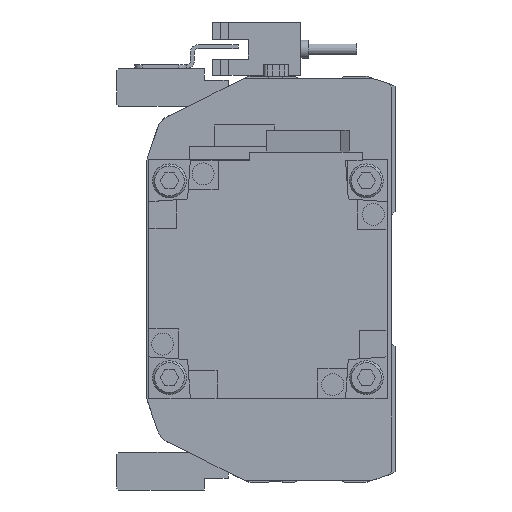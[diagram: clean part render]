
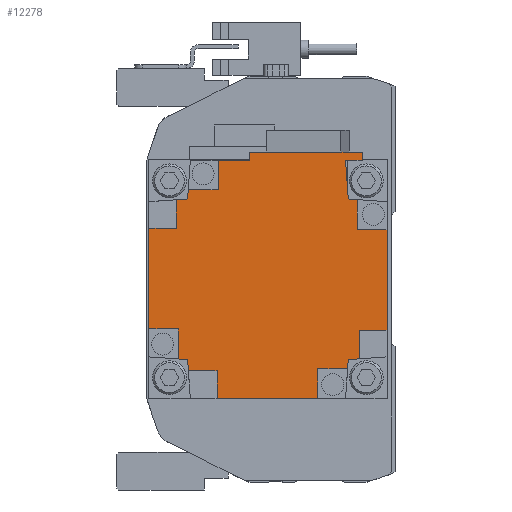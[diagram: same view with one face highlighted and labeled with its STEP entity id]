
A CAD part, left-side view. The second image highlights one B-rep face of the part: STEP entity #12278.
In plain terms, the highlighted planar face has unit normal (-1, 0, 0) as drawn and (0, 1, 0) by its records, which use the part's own axes.
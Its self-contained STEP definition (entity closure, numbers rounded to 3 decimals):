
#217=PLANE('',#13127);
#756=LINE('',#18224,#1999);
#773=LINE('',#18260,#2016);
#775=LINE('',#18264,#2018);
#776=LINE('',#18267,#2019);
#777=LINE('',#18269,#2020);
#778=LINE('',#18271,#2021);
#779=LINE('',#18273,#2022);
#780=LINE('',#18275,#2023);
#781=LINE('',#18277,#2024);
#782=LINE('',#18279,#2025);
#783=LINE('',#18281,#2026);
#784=LINE('',#18283,#2027);
#785=LINE('',#18285,#2028);
#786=LINE('',#18287,#2029);
#787=LINE('',#18289,#2030);
#788=LINE('',#18291,#2031);
#789=LINE('',#18293,#2032);
#790=LINE('',#18295,#2033);
#791=LINE('',#18297,#2034);
#792=LINE('',#18299,#2035);
#793=LINE('',#18301,#2036);
#794=LINE('',#18303,#2037);
#795=LINE('',#18305,#2038);
#796=LINE('',#18307,#2039);
#797=LINE('',#18309,#2040);
#798=LINE('',#18310,#2041);
#799=LINE('',#18311,#2042);
#800=LINE('',#18313,#2043);
#801=LINE('',#18315,#2044);
#802=LINE('',#18317,#2045);
#1999=VECTOR('',#14548,1000.);
#2016=VECTOR('',#14567,1000.);
#2018=VECTOR('',#14571,1000.);
#2019=VECTOR('',#14572,1000.);
#2020=VECTOR('',#14573,1000.);
#2021=VECTOR('',#14574,1000.);
#2022=VECTOR('',#14575,1000.);
#2023=VECTOR('',#14576,1000.);
#2024=VECTOR('',#14577,1000.);
#2025=VECTOR('',#14578,1000.);
#2026=VECTOR('',#14579,1000.);
#2027=VECTOR('',#14580,1000.);
#2028=VECTOR('',#14581,1000.);
#2029=VECTOR('',#14582,1000.);
#2030=VECTOR('',#14583,1000.);
#2031=VECTOR('',#14584,1000.);
#2032=VECTOR('',#14585,1000.);
#2033=VECTOR('',#14586,1000.);
#2034=VECTOR('',#14587,1000.);
#2035=VECTOR('',#14588,1000.);
#2036=VECTOR('',#14589,1000.);
#2037=VECTOR('',#14590,1000.);
#2038=VECTOR('',#14591,1000.);
#2039=VECTOR('',#14592,1000.);
#2040=VECTOR('',#14593,1000.);
#2041=VECTOR('',#14594,1000.);
#2042=VECTOR('',#14595,1000.);
#2043=VECTOR('',#14596,1000.);
#2044=VECTOR('',#14597,1000.);
#2045=VECTOR('',#14598,1000.);
#3443=ORIENTED_EDGE('',*,*,#6863,.T.);
#3444=ORIENTED_EDGE('',*,*,#6864,.T.);
#3445=ORIENTED_EDGE('',*,*,#6865,.T.);
#3446=ORIENTED_EDGE('',*,*,#6866,.T.);
#3447=ORIENTED_EDGE('',*,*,#6867,.T.);
#3448=ORIENTED_EDGE('',*,*,#6868,.F.);
#3449=ORIENTED_EDGE('',*,*,#6869,.F.);
#3450=ORIENTED_EDGE('',*,*,#6870,.T.);
#3451=ORIENTED_EDGE('',*,*,#6871,.T.);
#3452=ORIENTED_EDGE('',*,*,#6872,.T.);
#3453=ORIENTED_EDGE('',*,*,#6873,.T.);
#3454=ORIENTED_EDGE('',*,*,#6874,.T.);
#3455=ORIENTED_EDGE('',*,*,#6875,.F.);
#3456=ORIENTED_EDGE('',*,*,#6876,.F.);
#3457=ORIENTED_EDGE('',*,*,#6877,.T.);
#3458=ORIENTED_EDGE('',*,*,#6878,.T.);
#3459=ORIENTED_EDGE('',*,*,#6879,.T.);
#3460=ORIENTED_EDGE('',*,*,#6880,.T.);
#3461=ORIENTED_EDGE('',*,*,#6881,.T.);
#3462=ORIENTED_EDGE('',*,*,#6882,.F.);
#3463=ORIENTED_EDGE('',*,*,#6883,.F.);
#3464=ORIENTED_EDGE('',*,*,#6884,.T.);
#3465=ORIENTED_EDGE('',*,*,#6885,.F.);
#3466=ORIENTED_EDGE('',*,*,#6844,.F.);
#3467=ORIENTED_EDGE('',*,*,#6886,.T.);
#3468=ORIENTED_EDGE('',*,*,#6861,.T.);
#3469=ORIENTED_EDGE('',*,*,#6887,.T.);
#3470=ORIENTED_EDGE('',*,*,#6888,.T.);
#3471=ORIENTED_EDGE('',*,*,#6889,.F.);
#3472=ORIENTED_EDGE('',*,*,#6890,.F.);
#6844=EDGE_CURVE('',#8581,#8582,#756,.T.);
#6861=EDGE_CURVE('',#8599,#8598,#773,.T.);
#6863=EDGE_CURVE('',#8600,#8601,#775,.T.);
#6864=EDGE_CURVE('',#8601,#8602,#776,.T.);
#6865=EDGE_CURVE('',#8602,#8603,#777,.T.);
#6866=EDGE_CURVE('',#8603,#8604,#778,.T.);
#6867=EDGE_CURVE('',#8604,#8605,#779,.T.);
#6868=EDGE_CURVE('',#8606,#8605,#780,.T.);
#6869=EDGE_CURVE('',#8607,#8606,#781,.T.);
#6870=EDGE_CURVE('',#8607,#8608,#782,.T.);
#6871=EDGE_CURVE('',#8608,#8609,#783,.T.);
#6872=EDGE_CURVE('',#8609,#8610,#784,.T.);
#6873=EDGE_CURVE('',#8610,#8611,#785,.T.);
#6874=EDGE_CURVE('',#8611,#8612,#786,.T.);
#6875=EDGE_CURVE('',#8613,#8612,#787,.T.);
#6876=EDGE_CURVE('',#8614,#8613,#788,.T.);
#6877=EDGE_CURVE('',#8614,#8615,#789,.T.);
#6878=EDGE_CURVE('',#8615,#8616,#790,.T.);
#6879=EDGE_CURVE('',#8616,#8617,#791,.T.);
#6880=EDGE_CURVE('',#8617,#8618,#792,.T.);
#6881=EDGE_CURVE('',#8618,#8619,#793,.T.);
#6882=EDGE_CURVE('',#8620,#8619,#794,.T.);
#6883=EDGE_CURVE('',#8621,#8620,#795,.T.);
#6884=EDGE_CURVE('',#8621,#8622,#796,.T.);
#6885=EDGE_CURVE('',#8582,#8622,#797,.T.);
#6886=EDGE_CURVE('',#8581,#8599,#798,.T.);
#6887=EDGE_CURVE('',#8598,#8623,#799,.T.);
#6888=EDGE_CURVE('',#8623,#8624,#800,.T.);
#6889=EDGE_CURVE('',#8625,#8624,#801,.T.);
#6890=EDGE_CURVE('',#8600,#8625,#802,.T.);
#8581=VERTEX_POINT('',#18225);
#8582=VERTEX_POINT('',#18226);
#8598=VERTEX_POINT('',#18259);
#8599=VERTEX_POINT('',#18261);
#8600=VERTEX_POINT('',#18265);
#8601=VERTEX_POINT('',#18266);
#8602=VERTEX_POINT('',#18268);
#8603=VERTEX_POINT('',#18270);
#8604=VERTEX_POINT('',#18272);
#8605=VERTEX_POINT('',#18274);
#8606=VERTEX_POINT('',#18276);
#8607=VERTEX_POINT('',#18278);
#8608=VERTEX_POINT('',#18280);
#8609=VERTEX_POINT('',#18282);
#8610=VERTEX_POINT('',#18284);
#8611=VERTEX_POINT('',#18286);
#8612=VERTEX_POINT('',#18288);
#8613=VERTEX_POINT('',#18290);
#8614=VERTEX_POINT('',#18292);
#8615=VERTEX_POINT('',#18294);
#8616=VERTEX_POINT('',#18296);
#8617=VERTEX_POINT('',#18298);
#8618=VERTEX_POINT('',#18300);
#8619=VERTEX_POINT('',#18302);
#8620=VERTEX_POINT('',#18304);
#8621=VERTEX_POINT('',#18306);
#8622=VERTEX_POINT('',#18308);
#8623=VERTEX_POINT('',#18312);
#8624=VERTEX_POINT('',#18314);
#8625=VERTEX_POINT('',#18316);
#10220=EDGE_LOOP('',(#3443,#3444,#3445,#3446,#3447,#3448,#3449,#3450,#3451,
#3452,#3453,#3454,#3455,#3456,#3457,#3458,#3459,#3460,#3461,#3462,#3463,
#3464,#3465,#3466,#3467,#3468,#3469,#3470,#3471,#3472));
#11149=FACE_BOUND('',#10220,.T.);
#12278=ADVANCED_FACE('',(#11149),#217,.T.);
#13127=AXIS2_PLACEMENT_3D('',#18263,#14569,#14570);
#14548=DIRECTION('',(0.,0.,1.));
#14567=DIRECTION('',(0.,0.,-1.));
#14569=DIRECTION('',(0.,1.,0.));
#14570=DIRECTION('',(0.,0.,1.));
#14571=DIRECTION('',(-1.,0.,0.));
#14572=DIRECTION('',(0.,0.,-1.));
#14573=DIRECTION('',(-1.,0.,0.));
#14574=DIRECTION('',(0.,0.,1.));
#14575=DIRECTION('',(-1.,0.,0.));
#14576=DIRECTION('',(0.07,0.,-0.998));
#14577=DIRECTION('',(0.998,0.,-0.07));
#14578=DIRECTION('',(0.,0.,1.));
#14579=DIRECTION('',(-1.,0.,0.));
#14580=DIRECTION('',(0.,0.,1.));
#14581=DIRECTION('',(1.,0.,0.));
#14582=DIRECTION('',(0.,0.,1.));
#14583=DIRECTION('',(-0.998,0.,-0.07));
#14584=DIRECTION('',(-0.07,0.,-0.998));
#14585=DIRECTION('',(1.,0.,0.));
#14586=DIRECTION('',(0.,0.,1.));
#14587=DIRECTION('',(1.,0.,0.));
#14588=DIRECTION('',(0.,0.,-1.));
#14589=DIRECTION('',(1.,0.,0.));
#14590=DIRECTION('',(-0.07,0.,0.998));
#14591=DIRECTION('',(-0.998,0.,0.07));
#14592=DIRECTION('',(0.,0.,1.));
#14593=DIRECTION('',(-1.,0.,0.));
#14594=DIRECTION('',(-1.,0.,0.));
#14595=DIRECTION('',(-1.,0.,0.));
#14596=DIRECTION('',(0.,0.,-1.));
#14597=DIRECTION('',(0.998,0.,0.07));
#14598=DIRECTION('',(0.07,0.,0.998));
#18224=CARTESIAN_POINT('',(32.,130.7,-4.7));
#18225=CARTESIAN_POINT('',(32.,130.7,-4.7));
#18226=CARTESIAN_POINT('',(32.,130.7,23.7));
#18259=CARTESIAN_POINT('',(29.95,130.7,-12.5));
#18260=CARTESIAN_POINT('',(29.95,130.7,29.95));
#18261=CARTESIAN_POINT('',(29.95,130.7,-4.7));
#18263=CARTESIAN_POINT('',(0.,130.7,0.));
#18264=CARTESIAN_POINT('',(0.,130.7,-23.));
#18265=CARTESIAN_POINT('',(20.004,130.7,-23.));
#18266=CARTESIAN_POINT('',(12.8,130.7,-23.));
#18267=CARTESIAN_POINT('',(12.8,130.7,0.));
#18268=CARTESIAN_POINT('',(12.8,130.7,-29.95));
#18269=CARTESIAN_POINT('',(29.95,130.7,-29.95));
#18270=CARTESIAN_POINT('',(-12.5,130.7,-29.95));
#18271=CARTESIAN_POINT('',(-12.5,130.7,0.));
#18272=CARTESIAN_POINT('',(-12.5,130.7,-22.5));
#18273=CARTESIAN_POINT('',(0.,130.7,-22.5));
#18274=CARTESIAN_POINT('',(-20.039,130.7,-22.5));
#18275=CARTESIAN_POINT('',(-21.507,130.7,-1.504));
#18276=CARTESIAN_POINT('',(-20.2,130.7,-20.2));
#18277=CARTESIAN_POINT('',(-1.504,130.7,-21.507));
#18278=CARTESIAN_POINT('',(-23.,130.7,-20.004));
#18279=CARTESIAN_POINT('',(-23.,130.7,0.));
#18280=CARTESIAN_POINT('',(-23.,130.7,-12.8));
#18281=CARTESIAN_POINT('',(0.,130.7,-12.8));
#18282=CARTESIAN_POINT('',(-29.95,130.7,-12.8));
#18283=CARTESIAN_POINT('',(-29.95,130.7,-29.95));
#18284=CARTESIAN_POINT('',(-29.95,130.7,12.5));
#18285=CARTESIAN_POINT('',(0.,130.7,12.5));
#18286=CARTESIAN_POINT('',(-22.5,130.7,12.5));
#18287=CARTESIAN_POINT('',(-22.5,130.7,0.));
#18288=CARTESIAN_POINT('',(-22.5,130.7,20.039));
#18289=CARTESIAN_POINT('',(-1.504,130.7,21.507));
#18290=CARTESIAN_POINT('',(-20.2,130.7,20.2));
#18291=CARTESIAN_POINT('',(-21.507,130.7,1.504));
#18292=CARTESIAN_POINT('',(-20.004,130.7,23.));
#18293=CARTESIAN_POINT('',(0.,130.7,23.));
#18294=CARTESIAN_POINT('',(-12.8,130.7,23.));
#18295=CARTESIAN_POINT('',(-12.8,130.7,0.));
#18296=CARTESIAN_POINT('',(-12.8,130.7,29.95));
#18297=CARTESIAN_POINT('',(-29.95,130.7,29.95));
#18298=CARTESIAN_POINT('',(12.5,130.7,29.95));
#18299=CARTESIAN_POINT('',(12.5,130.7,0.));
#18300=CARTESIAN_POINT('',(12.5,130.7,22.5));
#18301=CARTESIAN_POINT('',(0.,130.7,22.5));
#18302=CARTESIAN_POINT('',(20.039,130.7,22.5));
#18303=CARTESIAN_POINT('',(21.507,130.7,1.504));
#18304=CARTESIAN_POINT('',(20.2,130.7,20.2));
#18305=CARTESIAN_POINT('',(1.504,130.7,21.507));
#18306=CARTESIAN_POINT('',(29.95,130.7,19.518));
#18307=CARTESIAN_POINT('',(29.95,130.7,-4.7));
#18308=CARTESIAN_POINT('',(29.95,130.7,23.7));
#18309=CARTESIAN_POINT('',(32.,130.7,23.7));
#18310=CARTESIAN_POINT('',(32.,130.7,-4.7));
#18311=CARTESIAN_POINT('',(0.,130.7,-12.5));
#18312=CARTESIAN_POINT('',(22.5,130.7,-12.5));
#18313=CARTESIAN_POINT('',(22.5,130.7,0.));
#18314=CARTESIAN_POINT('',(22.5,130.7,-20.039));
#18315=CARTESIAN_POINT('',(1.504,130.7,-21.507));
#18316=CARTESIAN_POINT('',(20.2,130.7,-20.2));
#18317=CARTESIAN_POINT('',(21.507,130.7,-1.504));
